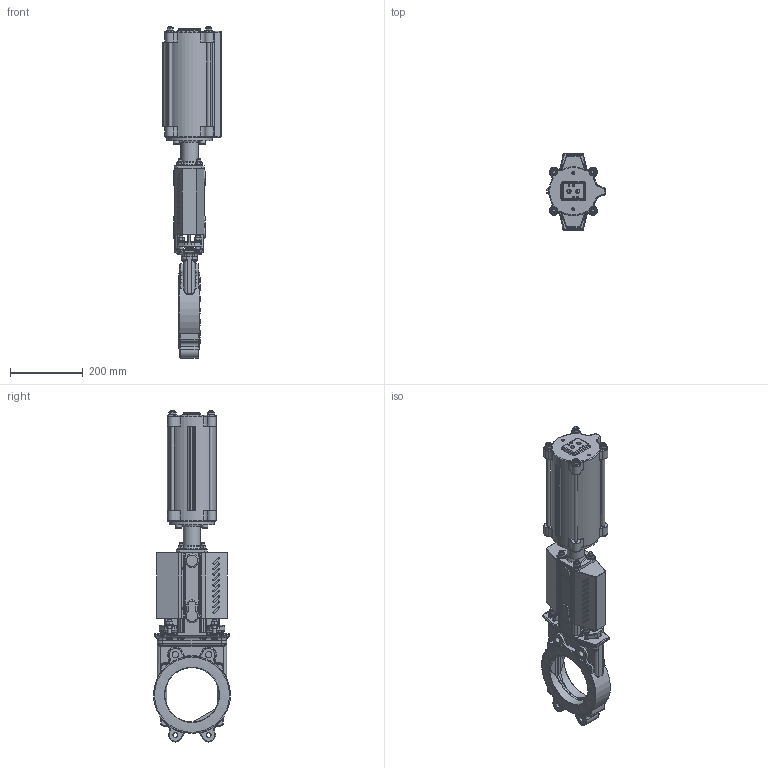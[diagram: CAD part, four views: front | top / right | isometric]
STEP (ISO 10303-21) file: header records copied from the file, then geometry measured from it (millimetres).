
FILE_DESCRIPTION(/* description */ (''),/* implementation_level */ '2;1');
FILE_NAME(/* name */ 'F:\Emir\3D-block special\WB\WB11-DN150-PN10-FRSC125-165_Shrinkwrap_2.stp',/* time_stamp */ '2018-01-19T14:46:59+01:00',/* author */ ('emimus'),/* organization */ (''),/* preprocessor_version */ 'ST-DEVELOPER v16.5',/* originating_system */ 'Autodesk Inventor 2017',/* authorisation */ '');
FILE_SCHEMA (('CONFIG_CONTROL_DESIGN'));
Products named in the file (1): WB11-DN150-PN10-FRSC125-165_Shrinkwrap_2
Bounding box: 161.5 x 211.68 x 914.36 mm (x, y, z)
Volume: 4111470.6 mm3; surface area: 1077482.4 mm2
Topology: 3 solids, 3 shells, 2404 faces, 5899 edges, 3573 vertices
Faces by surface type: plane 828, cylinder 770, torus 301, bspline 233, cone 212, sphere 60
Full cylindrical faces by diameter (mm): 4 x4, 4.134 x4, 4.2 x8, 4.4 x8, 6.4 x2, 6.647 x2, 8 x7, 8.2 x4, 8.376 x8, 9 x2, 10 x34, 10.5 x12, 11 x4, 11.445 x2, 13.386 x2, 13.835 x1, 15 x5, 16 x4, 17.294 x5, 20 x12, 22 x2, 28 x2, 30.1 x2, 34 x1, 35 x1, 36 x1, 36.4 x1, 38 x1, 40 x1, 48 x1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
Entity records: 75264 total; most frequent: CARTESIAN_POINT 21088, DIRECTION 11618, ORIENTED_EDGE 10994, EDGE_CURVE 5497, AXIS2_PLACEMENT_3D 4809, VERTEX_POINT 3473, EDGE_LOOP 2912, CIRCLE 2411
